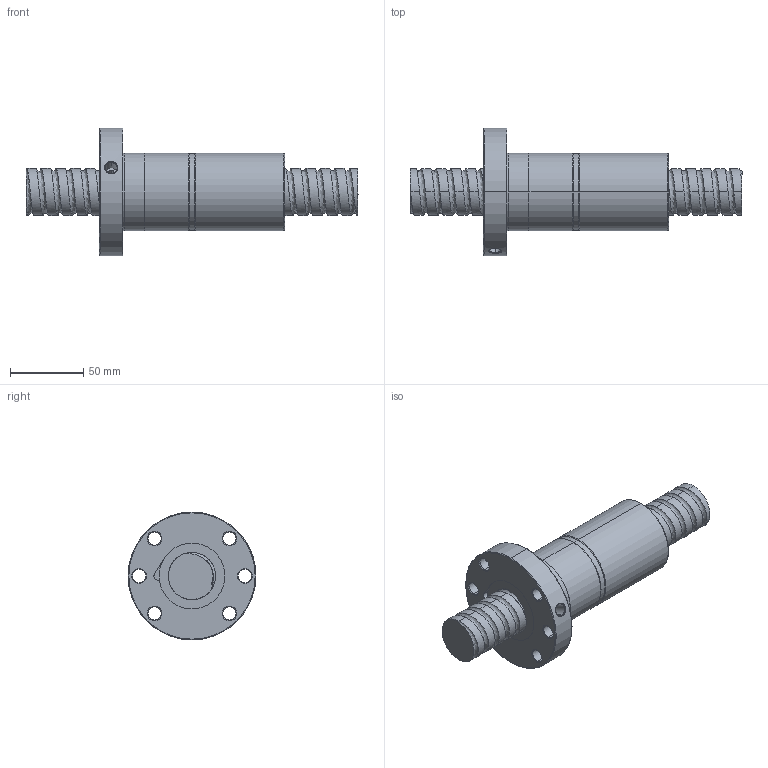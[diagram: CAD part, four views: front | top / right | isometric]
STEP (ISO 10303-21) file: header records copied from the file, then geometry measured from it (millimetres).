
FILE_DESCRIPTION (( 'STEP AP214' ), '1' );
FILE_NAME ('FDDC03210T4-C-A.STEP', '2010-07-06T03:17:32', ( 'XPAUTO' ), ( 'XPAUTO' ), 'SwSTEP 2.0', 'SolidWorks 2007', '' );
FILE_SCHEMA (( 'AUTOMOTIVE_DESIGN' ));
Length unit declared in the file: millimetre
Products named in the file (3): FDDC03210T4-C-A; FDDC03210T4-C-A.sldasm-Part-2_預設; FDDC03210T4-C-A.sldasm-Part-1_預設
Assembly tree (2 placements, depth 2):
  FDDC03210T4-C-A
    FDDC03210T4-C-A.sldasm-Part-2_預設
    FDDC03210T4-C-A.sldasm-Part-1_預設
Bounding box: 226 x 87 x 87 mm (x, y, z)
Volume: 397379.6 mm3; surface area: 75622.2 mm2
Topology: 2 solids, 2 shells, 145 faces, 365 edges, 229 vertices
Faces by surface type: cylinder 90, cone 24, plane 16, torus 10, bspline 5
Entity records: 30933 total; most frequent: CARTESIAN_POINT 27484, ORIENTED_EDGE 730, DIRECTION 667, EDGE_CURVE 365, AXIS2_PLACEMENT_3D 273, VERTEX_POINT 229, EDGE_LOOP 166, FACE_OUTER_BOUND 145
